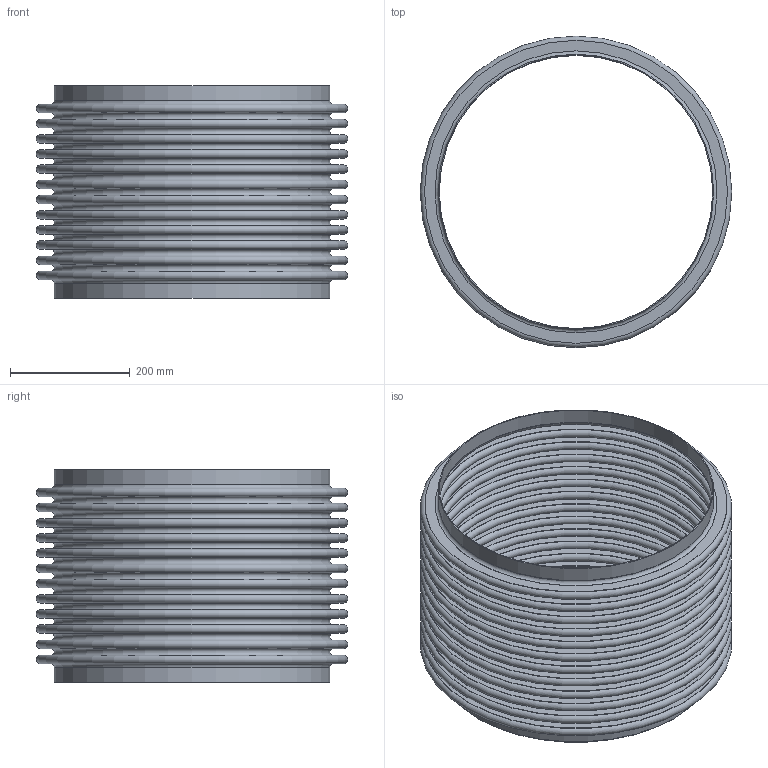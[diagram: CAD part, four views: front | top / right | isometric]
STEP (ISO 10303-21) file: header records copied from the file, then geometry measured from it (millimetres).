
FILE_DESCRIPTION(/* description */ ('STOCK BELLOWS: U.S-18-12-150L, 18.000 I.D., 20.500 O.D., 1 PLY, 16 GA (0.060 THICK), 12 CONS., 1.000 PITCH, 1.000 TANGENT. '),/* implementation_level */ '2;1');
FILE_NAME(/* name */ 'STOCK BELLOW - US-18-12-150L.stp',/* time_stamp */ '2026-07-21T13:05:43-05:00',/* author */ ('KennethB'),/* organization */ (''),/* preprocessor_version */ 'ST-DEVELOPER v20.1',/* originating_system */ 'Autodesk Inventor 2026',/* authorisation */ '');
FILE_SCHEMA (('AUTOMOTIVE_DESIGN { 1 0 10303 214 3 1 1 }'));
Length unit declared in the file: inch
Products named in the file (1): STOCK BELLOW - US-18-12-150L
Bounding box: 520.7 x 520.7 x 355.6 mm (x, y, z)
Volume: 2217062.1 mm3; surface area: 2922708 mm2
Topology: 3 solids, 3 shells, 108 faces, 162 edges, 109 vertices
Faces by surface type: plane 54, torus 50, cylinder 4
Full cylindrical faces by diameter (mm): 457.2 x2, 460.248 x2
Entity records: 2550 total; most frequent: DIRECTION 538, CARTESIAN_POINT 380, ORIENTED_EDGE 324, AXIS2_PLACEMENT_3D 267, EDGE_LOOP 162, EDGE_CURVE 162, CIRCLE 158, FACE_OUTER_BOUND 108
